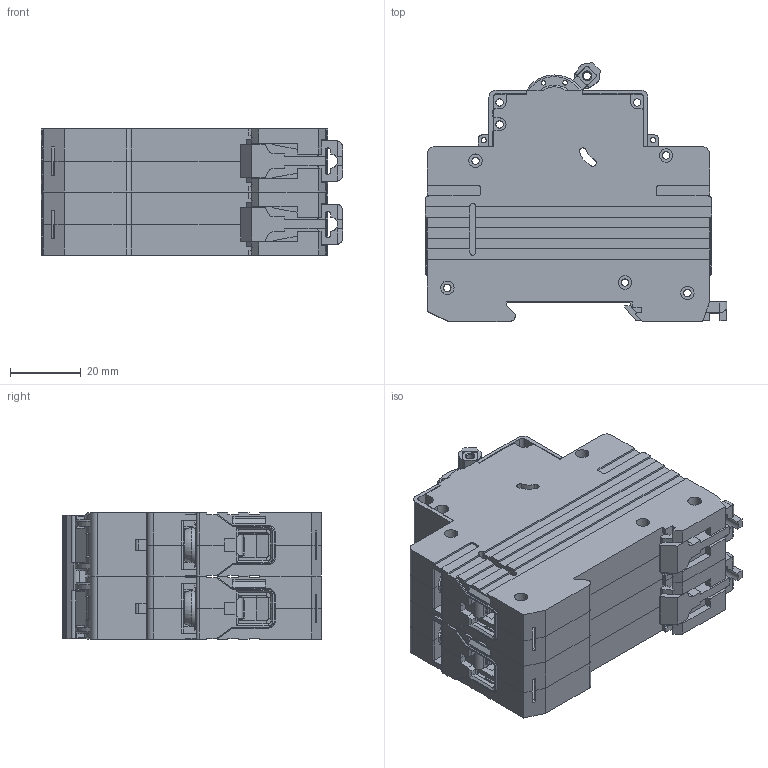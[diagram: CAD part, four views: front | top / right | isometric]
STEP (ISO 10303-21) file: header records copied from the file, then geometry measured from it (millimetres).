
FILE_DESCRIPTION (( 'STEP AP214' ), '1' );
FILE_NAME ('OptiDin 蟯63 - 2 瀁錌黟.STEP', '2022-11-14T11:29:08', ( '' ), ( '' ), 'SwSTEP 2.0', 'SolidWorks 2018', '' );
FILE_SCHEMA (( 'AUTOMOTIVE_DESIGN' ));
Length unit declared in the file: millimetre
Products named in the file (9): Áîêîâèíà ëåâàÿ ÃÆÈÊ.735224.139 (ïóñòàÿ).step; Ñêîáà ÃÆÈÊ.746442.009.step; OptiDin 蟯63 - 2 瀁錌黟; Êîëîäêà ÃÆÈÊ.745418.015.step; Çàù¸ëêà ÃÆÈÊ.741358.031.step; Ðó÷êà ÃÆÈÊ.753725.016; 妈眚 闷仁.758151.057.step; ﾂ鏆鮏 ﾃﾆﾈﾊ.745315.008.step; Áîêîâèíà ïðàâàÿ ÃÆÈÊ.735224.140 (ïóñòàÿ).step
Assembly tree (21 placements, depth 2):
  OptiDin 蟯63 - 2 瀁錌黟
    Áîêîâèíà ïðàâàÿ ÃÆÈÊ.735224.140 (ïóñòàÿ).step  x2
    Áîêîâèíà ëåâàÿ ÃÆÈÊ.735224.139 (ïóñòàÿ).step  x2
    Ðó÷êà ÃÆÈÊ.753725.016  x2
    ﾂ鏆鮏 ﾃﾆﾈﾊ.745315.008.step  x4
    Êîëîäêà ÃÆÈÊ.745418.015.step  x4
    妈眚 闷仁.758151.057.step  x4
    Çàù¸ëêà ÃÆÈÊ.741358.031.step  x2
    Ñêîáà ÃÆÈÊ.746442.009.step
Bounding box: 85.5 x 73.33 x 35.8 mm (x, y, z)
Volume: 61859 mm3; surface area: 83026.7 mm2
Topology: 21 solids, 49 shells, 3593 faces, 9779 edges, 6342 vertices
Faces by surface type: plane 2548, cylinder 955, cone 58, torus 24, bspline 8
Entity records: 56487 total; most frequent: CARTESIAN_POINT 9030, ORIENTED_EDGE 8508, DIRECTION 8227, EDGE_CURVE 4254, VECTOR 3277, LINE 3277, VERTEX_POINT 2774, AXIS2_PLACEMENT_3D 2475
